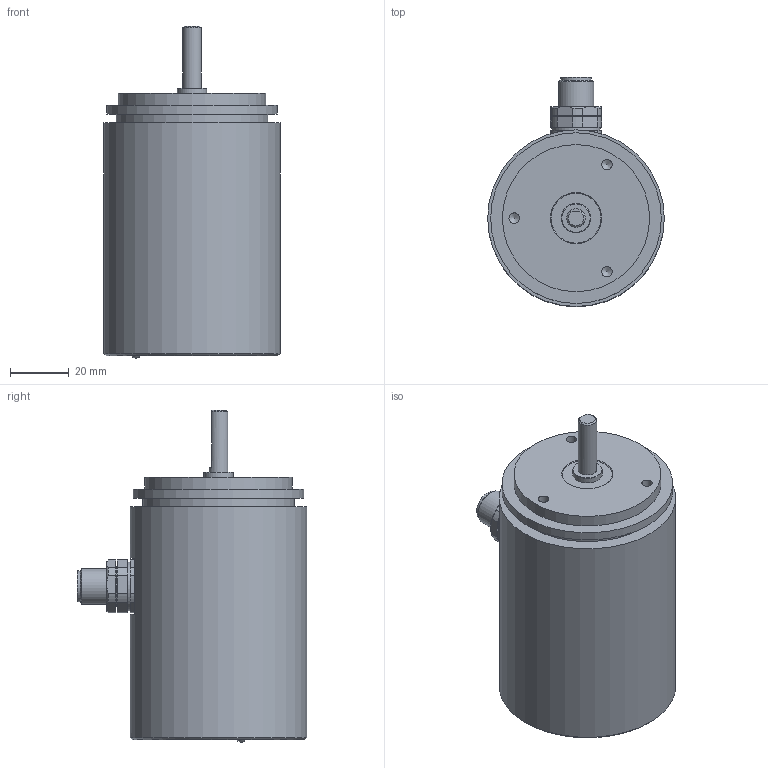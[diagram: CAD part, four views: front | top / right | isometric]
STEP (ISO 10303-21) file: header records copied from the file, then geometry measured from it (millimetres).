
FILE_DESCRIPTION(/* description */ ('Alibre Inc.'),/* implementation_level */ '2;1');
FILE_NAME(/* name */ 'export0',/* time_stamp */ '2016-10-21T14:15:47-04:00',/* author */ (''),/* organization */ (''),/* preprocessor_version */ 'ST-DEVELOPER v14',/* originating_system */ 'Alibre',/* authorisation */ '');
FILE_SCHEMA (('CONFIG_CONTROL_DESIGN'));
Length unit declared in the file: centimetre
Products named in the file (1): ID_1
Bounding box: 60 x 77.96 x 112.8 mm (x, y, z)
Volume: 160751.6 mm3; surface area: 41398.5 mm2
Topology: 3 solids, 43 shells, 279 faces, 476 edges, 314 vertices
Faces by surface type: plane 147, cylinder 101, cone 27, bspline 3, torus 1
Full cylindrical faces by diameter (mm): 1.4 x8, 2.87 x2, 3 x35, 3.545 x3, 6.34 x1, 8.3 x1, 9.9 x2, 10 x3, 10.5 x1, 11.8 x1, 12 x1, 13.5 x2, 14 x1, 15.2 x1, 16.5 x1, 17 x1, 20 x1, 26 x1, 46 x1, 50 x1, 51.5 x1, 55.8 x1, 58 x1, 60 x1
Entity records: 5856 total; most frequent: CARTESIAN_POINT 1086, DIRECTION 946, ORIENTED_EDGE 716, AXIS2_PLACEMENT_3D 478, FACE_BOUND 417, EDGE_LOOP 414, EDGE_CURVE 358, VERTEX_POINT 295
